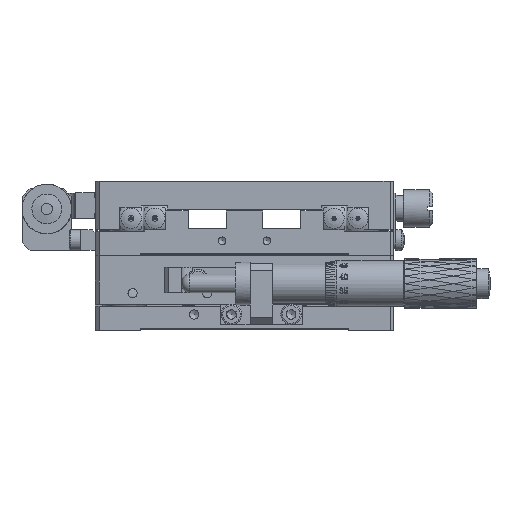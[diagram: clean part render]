
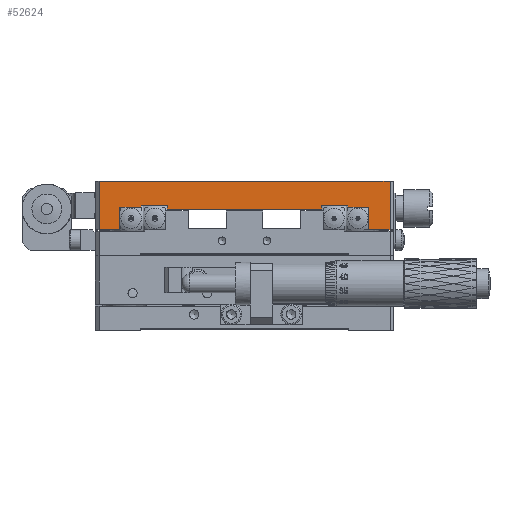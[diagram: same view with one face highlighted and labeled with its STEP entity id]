
A CAD part, top view. The second image highlights one B-rep face of the part: STEP entity #52624.
In plain terms, the highlighted planar face has unit normal (0, 0, 1).
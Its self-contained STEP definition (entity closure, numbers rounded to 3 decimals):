
#876 = CARTESIAN_POINT ( 'NONE',  ( 79., 40., 40. ) ) ;
#1393 = CARTESIAN_POINT ( 'NONE',  ( 60.7, 33.5, 40. ) ) ;
#2687 = VECTOR ( 'NONE', #109154, 1000. ) ;
#3735 = VERTEX_POINT ( 'NONE', #187782 ) ;
#4134 = LINE ( 'NONE', #62134, #57817 ) ;
#7862 = FACE_OUTER_BOUND ( 'NONE', #123562, .T. ) ;
#10889 = ORIENTED_EDGE ( 'NONE', *, *, #67051, .F. ) ;
#15700 = VECTOR ( 'NONE', #77601, 1000. ) ;
#16436 = CARTESIAN_POINT ( 'NONE',  ( 67.7, 33.5, 40. ) ) ;
#16621 = VERTEX_POINT ( 'NONE', #118504 ) ;
#16900 = EDGE_CURVE ( 'NONE', #175261, #111991, #91161, .T. ) ;
#18549 = DIRECTION ( 'NONE',  ( -1., 0., 0. ) ) ;
#18976 = VERTEX_POINT ( 'NONE', #25512 ) ;
#19317 = VECTOR ( 'NONE', #89869, 1000. ) ;
#19748 = VERTEX_POINT ( 'NONE', #876 ) ;
#22785 = CARTESIAN_POINT ( 'NONE',  ( 67.7, 33.5, 40. ) ) ;
#23532 = LINE ( 'NONE', #95179, #164749 ) ;
#25512 = CARTESIAN_POINT ( 'NONE',  ( 12.3, 33.5, 40. ) ) ;
#29107 = ORIENTED_EDGE ( 'NONE', *, *, #137318, .T. ) ;
#30620 = LINE ( 'NONE', #22785, #117777 ) ;
#34018 = CARTESIAN_POINT ( 'NONE',  ( 0., 27., 40. ) ) ;
#35939 = CARTESIAN_POINT ( 'NONE',  ( 12.3, 33., 40. ) ) ;
#37518 = VERTEX_POINT ( 'NONE', #86597 ) ;
#38086 = EDGE_CURVE ( 'NONE', #156558, #19748, #60827, .T. ) ;
#39175 = ORIENTED_EDGE ( 'NONE', *, *, #16900, .T. ) ;
#41653 = LINE ( 'NONE', #98747, #64434 ) ;
#43476 = VERTEX_POINT ( 'NONE', #167172 ) ;
#45597 = CARTESIAN_POINT ( 'NONE',  ( 67.7, 33.5, 40. ) ) ;
#49199 = CARTESIAN_POINT ( 'NONE',  ( 0., 40., 40. ) ) ;
#49410 = ORIENTED_EDGE ( 'NONE', *, *, #189392, .T. ) ;
#49834 = ORIENTED_EDGE ( 'NONE', *, *, #55508, .F. ) ;
#52624 = ADVANCED_FACE ( 'NONE', ( #7862 ), #93004, .T. ) ;
#55508 = EDGE_CURVE ( 'NONE', #91823, #16621, #185184, .T. ) ;
#57817 = VECTOR ( 'NONE', #163685, 1000. ) ;
#60827 = LINE ( 'NONE', #49199, #19317 ) ;
#61388 = LINE ( 'NONE', #120393, #109383 ) ;
#61707 = VERTEX_POINT ( 'NONE', #110266 ) ;
#62134 = CARTESIAN_POINT ( 'NONE',  ( 1., 27., 40. ) ) ;
#62800 = LINE ( 'NONE', #16436, #95403 ) ;
#64434 = VECTOR ( 'NONE', #100660, 1000. ) ;
#67051 = EDGE_CURVE ( 'NONE', #180430, #37518, #23532, .T. ) ;
#67262 = DIRECTION ( 'NONE',  ( 1., 0., 0. ) ) ;
#68432 = CARTESIAN_POINT ( 'NONE',  ( 73.2, 27., 40. ) ) ;
#69170 = VERTEX_POINT ( 'NONE', #180973 ) ;
#75123 = EDGE_CURVE ( 'NONE', #180430, #114525, #61388, .T. ) ;
#76390 = DIRECTION ( 'NONE',  ( 0., -1., 0. ) ) ;
#77601 = DIRECTION ( 'NONE',  ( 0., -1., 0. ) ) ;
#79461 = ORIENTED_EDGE ( 'NONE', *, *, #165744, .T. ) ;
#83033 = EDGE_CURVE ( 'NONE', #69170, #3735, #121244, .T. ) ;
#86597 = CARTESIAN_POINT ( 'NONE',  ( 73.2, 33., 40. ) ) ;
#87800 = DIRECTION ( 'NONE',  ( 0., 1., 0. ) ) ;
#89120 = LINE ( 'NONE', #45597, #121700 ) ;
#89772 = ORIENTED_EDGE ( 'NONE', *, *, #92499, .T. ) ;
#89869 = DIRECTION ( 'NONE',  ( 1., 0., 0. ) ) ;
#90055 = DIRECTION ( 'NONE',  ( 1., 0., 0. ) ) ;
#91161 = LINE ( 'NONE', #163654, #15700 ) ;
#91823 = VERTEX_POINT ( 'NONE', #135249 ) ;
#92499 = EDGE_CURVE ( 'NONE', #114525, #19748, #92739, .T. ) ;
#92739 = LINE ( 'NONE', #152639, #2687 ) ;
#93004 = PLANE ( 'NONE',  #183201 ) ;
#95179 = CARTESIAN_POINT ( 'NONE',  ( 73.2, 27., 40. ) ) ;
#95403 = VECTOR ( 'NONE', #76390, 1000. ) ;
#96960 = CARTESIAN_POINT ( 'NONE',  ( 1., 40., 40. ) ) ;
#98747 = CARTESIAN_POINT ( 'NONE',  ( 0., 27., 40. ) ) ;
#100640 = DIRECTION ( 'NONE',  ( -1., 0., 0. ) ) ;
#100660 = DIRECTION ( 'NONE',  ( 1., 0., 0. ) ) ;
#103078 = EDGE_CURVE ( 'NONE', #3735, #158249, #30620, .T. ) ;
#109154 = DIRECTION ( 'NONE',  ( 0., 1., 0. ) ) ;
#109383 = VECTOR ( 'NONE', #180304, 1000. ) ;
#109738 = LINE ( 'NONE', #111611, #140707 ) ;
#110266 = CARTESIAN_POINT ( 'NONE',  ( 1., 27., 40. ) ) ;
#111611 = CARTESIAN_POINT ( 'NONE',  ( 19.3, 32.5, 40. ) ) ;
#111733 = CARTESIAN_POINT ( 'NONE',  ( 6.6, 27., 40. ) ) ;
#111991 = VERTEX_POINT ( 'NONE', #119684 ) ;
#112833 = ORIENTED_EDGE ( 'NONE', *, *, #103078, .T. ) ;
#114525 = VERTEX_POINT ( 'NONE', #168330 ) ;
#115153 = DIRECTION ( 'NONE',  ( 1., 0., 0. ) ) ;
#115956 = VECTOR ( 'NONE', #18549, 1000. ) ;
#116261 = CARTESIAN_POINT ( 'NONE',  ( 67.7, 33.5, 40. ) ) ;
#116788 = CARTESIAN_POINT ( 'NONE',  ( 12.3, 33.5, 40. ) ) ;
#117777 = VECTOR ( 'NONE', #67262, 1000. ) ;
#118504 = CARTESIAN_POINT ( 'NONE',  ( 6.6, 27., 40. ) ) ;
#119684 = CARTESIAN_POINT ( 'NONE',  ( 19.3, 32.5, 40. ) ) ;
#120393 = CARTESIAN_POINT ( 'NONE',  ( 0., 27., 40. ) ) ;
#121244 = LINE ( 'NONE', #1393, #165929 ) ;
#121700 = VECTOR ( 'NONE', #90055, 1000. ) ;
#122029 = DIRECTION ( 'NONE',  ( 0., 0., 1. ) ) ;
#123562 = EDGE_LOOP ( 'NONE', ( #49834, #145016, #127931, #79461, #39175, #176548, #134714, #112833, #144945, #172518, #10889, #126449, #89772, #189685, #49410, #29107 ) ) ;
#126449 = ORIENTED_EDGE ( 'NONE', *, *, #75123, .T. ) ;
#127581 = VECTOR ( 'NONE', #100640, 1000. ) ;
#127931 = ORIENTED_EDGE ( 'NONE', *, *, #159625, .T. ) ;
#133425 = EDGE_CURVE ( 'NONE', #158249, #188504, #62800, .T. ) ;
#134714 = ORIENTED_EDGE ( 'NONE', *, *, #83033, .T. ) ;
#135249 = CARTESIAN_POINT ( 'NONE',  ( 6.6, 33., 40. ) ) ;
#137318 = EDGE_CURVE ( 'NONE', #61707, #16621, #41653, .T. ) ;
#140707 = VECTOR ( 'NONE', #115153, 1000. ) ;
#142914 = LINE ( 'NONE', #116788, #154943 ) ;
#144945 = ORIENTED_EDGE ( 'NONE', *, *, #133425, .T. ) ;
#145016 = ORIENTED_EDGE ( 'NONE', *, *, #184139, .F. ) ;
#147015 = CARTESIAN_POINT ( 'NONE',  ( 67.7, 33., 40. ) ) ;
#151959 = DIRECTION ( 'NONE',  ( 1., 0., 0. ) ) ;
#152639 = CARTESIAN_POINT ( 'NONE',  ( 79., 27., 40. ) ) ;
#153809 = CARTESIAN_POINT ( 'NONE',  ( 19.3, 33.5, 40. ) ) ;
#154943 = VECTOR ( 'NONE', #87800, 1000. ) ;
#156558 = VERTEX_POINT ( 'NONE', #96960 ) ;
#158249 = VERTEX_POINT ( 'NONE', #116261 ) ;
#159625 = EDGE_CURVE ( 'NONE', #43476, #18976, #142914, .T. ) ;
#160716 = CARTESIAN_POINT ( 'NONE',  ( 67.7, 33., 40. ) ) ;
#162163 = EDGE_CURVE ( 'NONE', #37518, #188504, #170277, .T. ) ;
#163654 = CARTESIAN_POINT ( 'NONE',  ( 19.3, 33.5, 40. ) ) ;
#163685 = DIRECTION ( 'NONE',  ( 0., -1., 0. ) ) ;
#164749 = VECTOR ( 'NONE', #171472, 1000. ) ;
#164917 = VECTOR ( 'NONE', #170692, 1000. ) ;
#165744 = EDGE_CURVE ( 'NONE', #18976, #175261, #89120, .T. ) ;
#165929 = VECTOR ( 'NONE', #180196, 1000. ) ;
#167172 = CARTESIAN_POINT ( 'NONE',  ( 12.3, 33., 40. ) ) ;
#168330 = CARTESIAN_POINT ( 'NONE',  ( 79., 27., 40. ) ) ;
#170277 = LINE ( 'NONE', #147015, #127581 ) ;
#170692 = DIRECTION ( 'NONE',  ( 0., -1., 0. ) ) ;
#171472 = DIRECTION ( 'NONE',  ( 0., 1., 0. ) ) ;
#172518 = ORIENTED_EDGE ( 'NONE', *, *, #162163, .F. ) ;
#175261 = VERTEX_POINT ( 'NONE', #153809 ) ;
#176548 = ORIENTED_EDGE ( 'NONE', *, *, #181005, .T. ) ;
#180196 = DIRECTION ( 'NONE',  ( 0., 1., 0. ) ) ;
#180304 = DIRECTION ( 'NONE',  ( 1., 0., 0. ) ) ;
#180430 = VERTEX_POINT ( 'NONE', #68432 ) ;
#180973 = CARTESIAN_POINT ( 'NONE',  ( 60.7, 32.5, 40. ) ) ;
#181005 = EDGE_CURVE ( 'NONE', #111991, #69170, #109738, .T. ) ;
#181905 = LINE ( 'NONE', #35939, #115956 ) ;
#183201 = AXIS2_PLACEMENT_3D ( 'NONE', #34018, #122029, #151959 ) ;
#184139 = EDGE_CURVE ( 'NONE', #43476, #91823, #181905, .T. ) ;
#185184 = LINE ( 'NONE', #111733, #164917 ) ;
#187782 = CARTESIAN_POINT ( 'NONE',  ( 60.7, 33.5, 40. ) ) ;
#188504 = VERTEX_POINT ( 'NONE', #160716 ) ;
#189392 = EDGE_CURVE ( 'NONE', #156558, #61707, #4134, .T. ) ;
#189685 = ORIENTED_EDGE ( 'NONE', *, *, #38086, .F. ) ;
